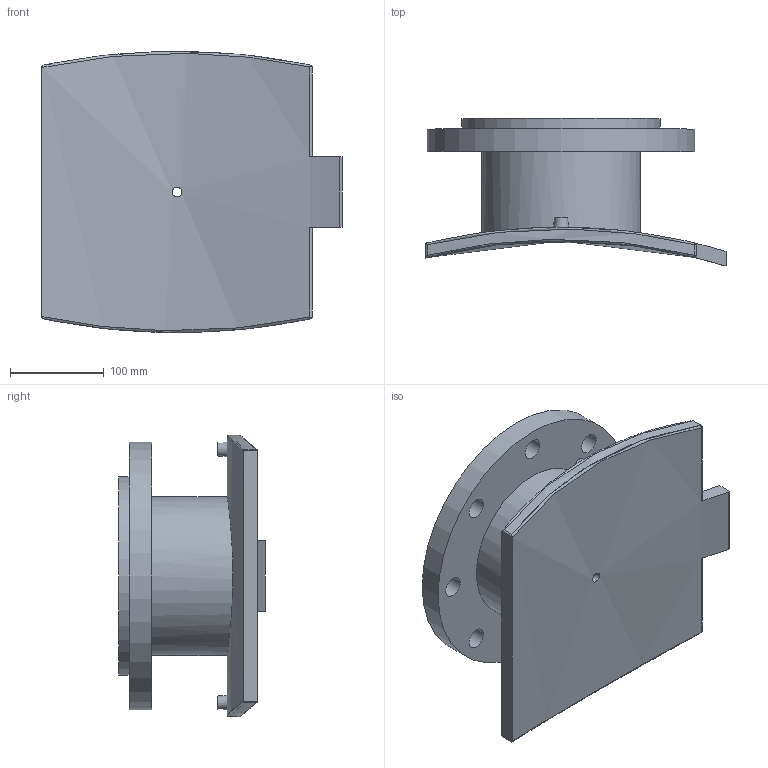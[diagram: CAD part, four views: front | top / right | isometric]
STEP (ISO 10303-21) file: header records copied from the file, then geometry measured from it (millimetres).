
FILE_DESCRIPTION(/* description */ ('PLASSON FLANGED BRANCH SADDLE 1200x150'),/* implementation_level */ '2;1');
FILE_NAME(/* name */ 'C:\Dropbox\KIMPROJECTS-Inventor 2019\99-16-3568-Processing\ElectroFusion Fittings\495904_495903\stp\4959031200150T.stp',/* time_stamp */ '2024-04-03T21:09:42+02:00',/* author */ ('KIM'),/* organization */ (''),/* preprocessor_version */ 'ST-DEVELOPER v17.2',/* originating_system */ 'Autodesk Inventor 2019',/* authorisation */ '');
FILE_SCHEMA (('AUTOMOTIVE_DESIGN { 1 0 10303 214 3 1 1 }'));
Length unit declared in the file: millimetre
Products named in the file (1): 4959031200150T
Bounding box: 320 x 156.72 x 299.81 mm (x, y, z)
Volume: 3448361.4 mm3; surface area: 411831.4 mm2
Topology: 1 solids, 1 shells, 58 faces, 151 edges, 118 vertices
Faces by surface type: cylinder 31, plane 17, sphere 4, bspline 4, cone 2
Full cylindrical faces by diameter (mm): 4 x2, 10 x2, 10.4 x1, 16 x1, 22 x8, 131 x1, 169.6 x1, 212 x1, 285 x1
Entity records: 2342 total; most frequent: CARTESIAN_POINT 846, DIRECTION 297, ORIENTED_EDGE 274, EDGE_CURVE 137, AXIS2_PLACEMENT_3D 125, VERTEX_POINT 92, EDGE_LOOP 87, CIRCLE 70
